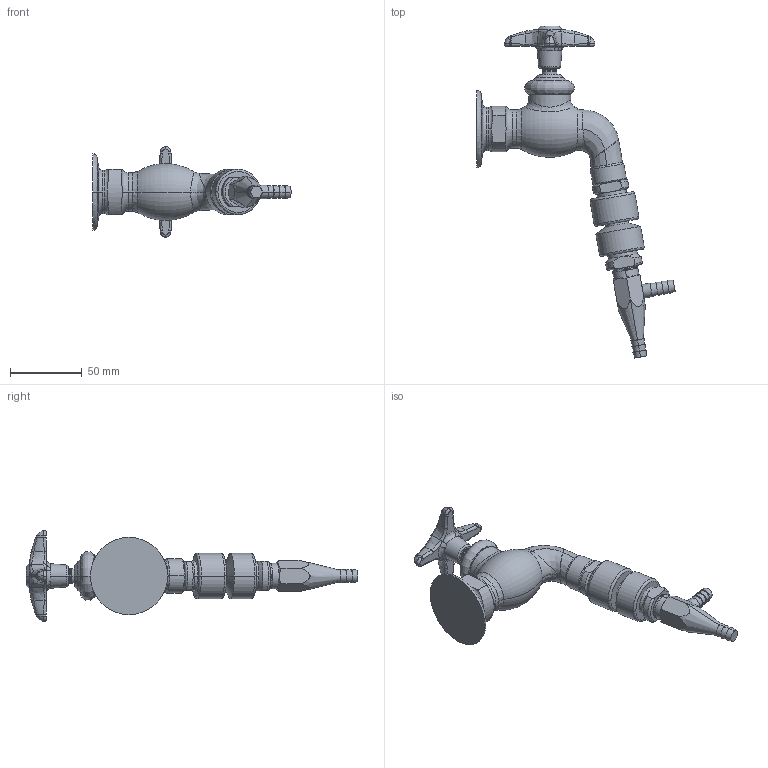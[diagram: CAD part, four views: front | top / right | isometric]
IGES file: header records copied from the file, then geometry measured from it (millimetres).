
Start section:  PTC IGES file: LWV3-C63.igs
Global section: file name: LWV3-C63.igs; native system: Creo Parametric by PTC Inc.; preprocessor: 2014500; author: usch_engrender; organization: Unknown; date: 20150910.122603; units: inch
Bounding box: 138.54 x 232.1 x 63.41 mm (x, y, z)
Volume: 171957.9 mm3; surface area: 33980 mm2
Topology: 1 solids, 3 shells, 328 faces, 730 edges, 425 vertices
Faces by surface type: bspline 198, revolution 130
